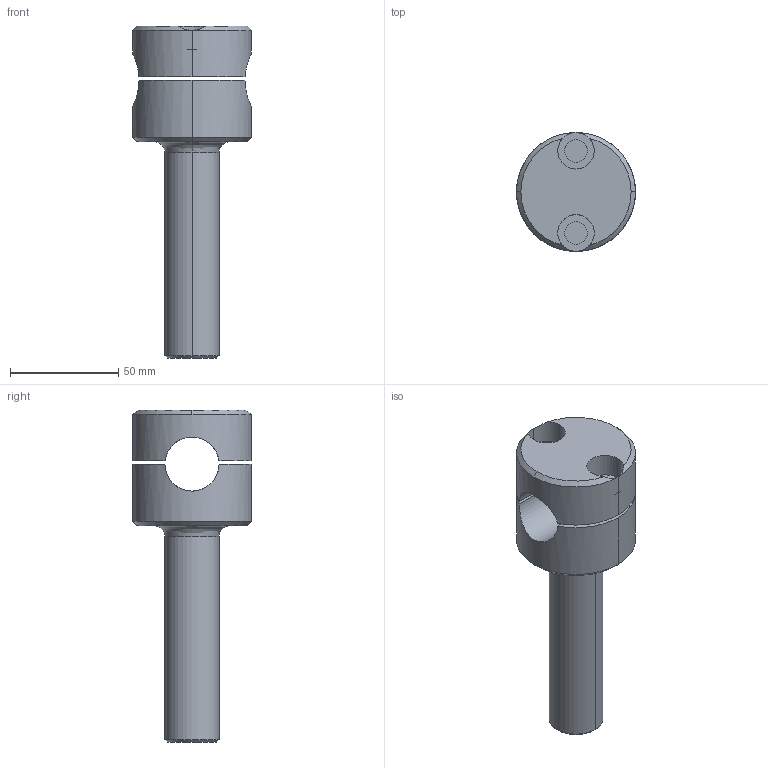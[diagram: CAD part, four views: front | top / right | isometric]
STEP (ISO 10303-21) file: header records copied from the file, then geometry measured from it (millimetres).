
FILE_DESCRIPTION( (''), '2;1');
FILE_NAME ('SY-2080-01_THB-2525.stp','2022-04-01T16:40:26',(''),(''),'spGate 18.9.3 (****-****-****-****)','','');
FILE_SCHEMA (('AUTOMOTIVE_DESIGN'));
Length unit declared in the file: millimetre
Products named in the file (3): Assembly; SY-2080-01_THB-2525-prt0; SY-2080-01_THB-2525-prt1
Assembly tree (2 placements, depth 2):
  Assembly
    SY-2080-01_THB-2525-prt0
    SY-2080-01_THB-2525-prt1
Bounding box: 55 x 55 x 153.5 mm (x, y, z)
Volume: 136705.8 mm3; surface area: 29335.2 mm2
Topology: 2 solids, 2 shells, 39 faces, 90 edges, 58 vertices
Faces by surface type: cylinder 20, plane 11, bspline 8
Entity records: 2214 total; most frequent: CARTESIAN_POINT 557, DIRECTION 186, ORIENTED_EDGE 180, COLOUR_RGB 131, PRESENTATION_STYLE_ASSIGNMENT 131, STYLED_ITEM 131, AXIS2_PLACEMENT_3D 91, EDGE_CURVE 90
